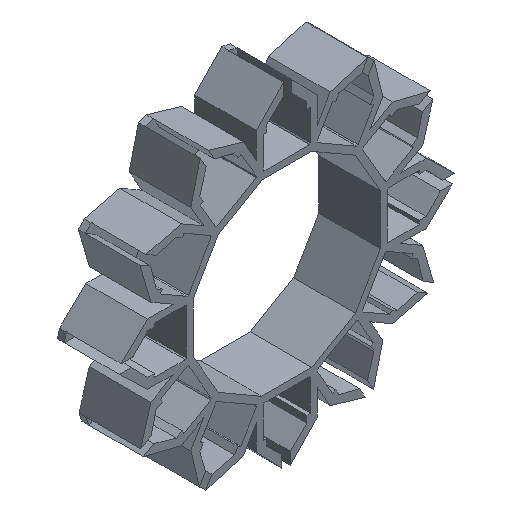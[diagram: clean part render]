
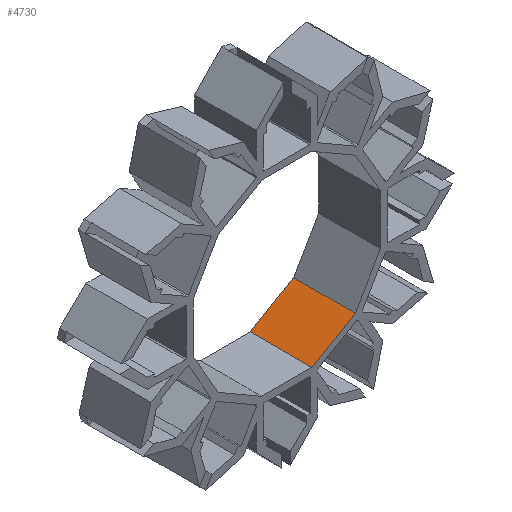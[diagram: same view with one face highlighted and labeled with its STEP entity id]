
A CAD part, isometric view. The second image highlights one B-rep face of the part: STEP entity #4730.
In plain terms, the highlighted planar face has unit normal (-0.5, 0, 0.866).
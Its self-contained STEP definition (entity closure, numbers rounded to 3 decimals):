
#66=FACE_OUTER_BOUND('',#309,.T.);
#309=EDGE_LOOP('',(#3479,#3480,#3481,#3482));
#784=LINE('',#6914,#1480);
#813=LINE('',#6971,#1509);
#822=LINE('',#6990,#1518);
#823=LINE('',#6991,#1519);
#1480=VECTOR('',#5504,10.);
#1509=VECTOR('',#5569,10.);
#1518=VECTOR('',#5588,10.);
#1519=VECTOR('',#5589,10.);
#2149=VERTEX_POINT('',#6911);
#2150=VERTEX_POINT('',#6913);
#2160=VERTEX_POINT('',#6970);
#2165=VERTEX_POINT('',#6989);
#2632=EDGE_CURVE('',#2149,#2150,#784,.T.);
#2661=EDGE_CURVE('',#2150,#2160,#813,.T.);
#2670=EDGE_CURVE('',#2165,#2149,#822,.T.);
#2671=EDGE_CURVE('',#2160,#2165,#823,.T.);
#3479=ORIENTED_EDGE('',*,*,#2670,.F.);
#3480=ORIENTED_EDGE('',*,*,#2671,.F.);
#3481=ORIENTED_EDGE('',*,*,#2661,.F.);
#3482=ORIENTED_EDGE('',*,*,#2632,.F.);
#4488=PLANE('',#4974);
#4730=ADVANCED_FACE('',(#66),#4488,.T.);
#4974=AXIS2_PLACEMENT_3D('',#6988,#5586,#5587);
#5504=DIRECTION('',(-0.866,0.,-0.5));
#5569=DIRECTION('',(0.,1.,0.));
#5586=DIRECTION('center_axis',(-0.5,0.,0.866));
#5587=DIRECTION('ref_axis',(0.866,0.,0.5));
#5588=DIRECTION('',(0.,-1.,0.));
#5589=DIRECTION('',(0.866,0.,0.5));
#6911=CARTESIAN_POINT('',(30.999,22.661,-10.01));
#6913=CARTESIAN_POINT('',(24.66,22.661,-13.67));
#6914=CARTESIAN_POINT('',(23.983,22.661,-14.06));
#6970=CARTESIAN_POINT('',(24.66,31.661,-13.67));
#6971=CARTESIAN_POINT('',(24.66,29.661,-13.67));
#6988=CARTESIAN_POINT('Origin',(23.983,29.661,-14.06));
#6989=CARTESIAN_POINT('',(30.999,31.661,-10.01));
#6990=CARTESIAN_POINT('',(30.999,29.661,-10.01));
#6991=CARTESIAN_POINT('',(23.983,31.661,-14.06));
